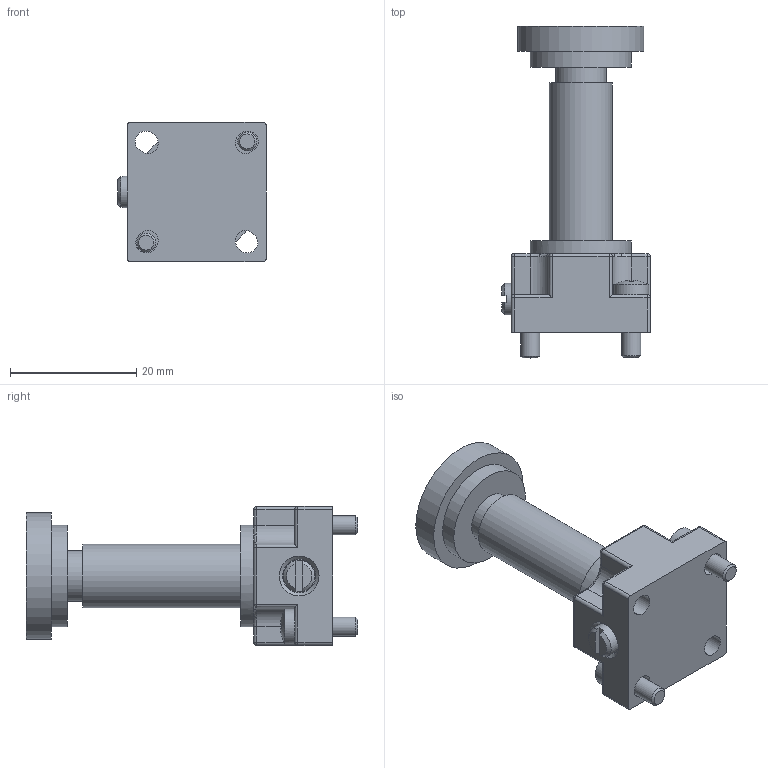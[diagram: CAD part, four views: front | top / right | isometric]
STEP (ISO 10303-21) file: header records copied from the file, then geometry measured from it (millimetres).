
FILE_DESCRIPTION( ( 'STEP AP203' ), '1' );
FILE_NAME( 'p:/temp/worker_149/temp/exporttempdir_2056_615_AYrh3/format_0/M 2 P.stp', '2021-02-05T06:00:20', ( 'License CC BY-ND 4.0' ), ( 'CADENAS' ), ' ', 'PARTsolutions', ' ' );
FILE_SCHEMA( ( 'CONFIG_CONTROL_DESIGN' ) );
Length unit declared in the file: millimetre
Products named in the file (1): _M 2 P
Bounding box: 23.5 x 52.5 x 22 mm (x, y, z)
Volume: 9349.7 mm3; surface area: 4449.8 mm2
Topology: 1 solids, 1 shells, 156 faces, 369 edges, 214 vertices
Faces by surface type: plane 69, cylinder 56, sphere 12, torus 8, bspline 6, cone 5
Full cylindrical faces by diameter (mm): 3 x2, 5 x2, 5.3 x1, 5.5 x2, 8 x1, 10 x1, 16 x2, 20 x1
Entity records: 4872 total; most frequent: CARTESIAN_POINT 1403, DIRECTION 748, ORIENTED_EDGE 666, EDGE_CURVE 333, AXIS2_PLACEMENT_3D 296, VERTEX_POINT 207, EDGE_LOOP 188, FACE_OUTER_BOUND 170
